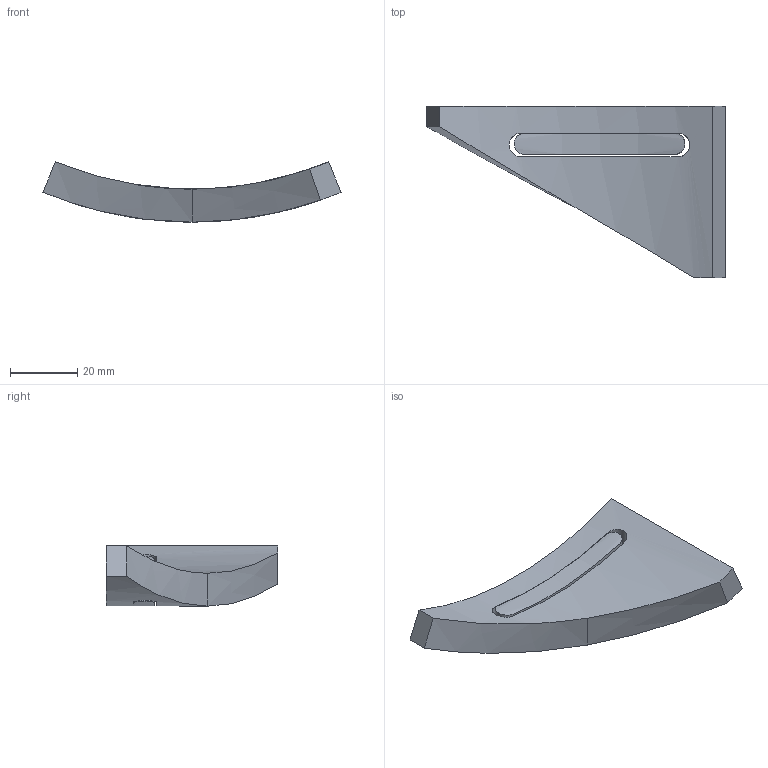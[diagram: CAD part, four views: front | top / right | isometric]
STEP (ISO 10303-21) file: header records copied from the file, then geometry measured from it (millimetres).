
FILE_DESCRIPTION(/* description */ ('Арт.19305M'),/* implementation_level */ '2;1');
FILE_NAME(/* name */ 'C:\1\Проекты\!В РАБОТЕ\Направляющая Активаторная станция Линия L4,L5 Арт.19305M\Направляющая Активаторная станция Линия L4,L5 Арт.19305M.stp',/* time_stamp */ '2026-03-24T11:06:28+03:00',/* author */ ('Asus'),/* organization */ (''),/* preprocessor_version */ 'ST-DEVELOPER v18.1',/* originating_system */ 'Autodesk Inventor 2021',/* authorisation */ '');
FILE_SCHEMA (('AUTOMOTIVE_DESIGN { 1 0 10303 214 3 1 1 }'));
Length unit declared in the file: millimetre
Products named in the file (4): Направляющая Активаторная 
станция Линия L4,L
5; Основание направляющей 
Активаторная станция 
Линия L4,L5; Пластина направляющей 
прижимная Активаторная 
станция Линия L4,L
5; DIN 912 - M3 x 8
Assembly tree (3 placements, depth 2):
  Направляющая Активаторная 
станция Линия L4,L
5
    Основание направляющей 
Активаторная станция 
Линия L4,L5
    Пластина направляющей 
прижимная Активаторная 
станция Линия L4,L
5
    DIN 912 - M3 x 8
Bounding box: 88.9 x 51 x 17.98 mm (x, y, z)
Volume: 23628 mm3; surface area: 10683.5 mm2
Topology: 3 solids, 3 shells, 67 faces, 185 edges, 123 vertices
Faces by surface type: cylinder 21, cone 18, plane 18, bspline 8, torus 2
Full cylindrical faces by diameter (mm): 2.459 x1, 3 x1, 3.6 x1, 4.917 x4, 5.5 x1, 6.5 x5
Entity records: 2754 total; most frequent: CARTESIAN_POINT 887, ORIENTED_EDGE 368, DIRECTION 346, EDGE_CURVE 184, AXIS2_PLACEMENT_3D 138, VERTEX_POINT 123, EDGE_LOOP 89, CIRCLE 72
